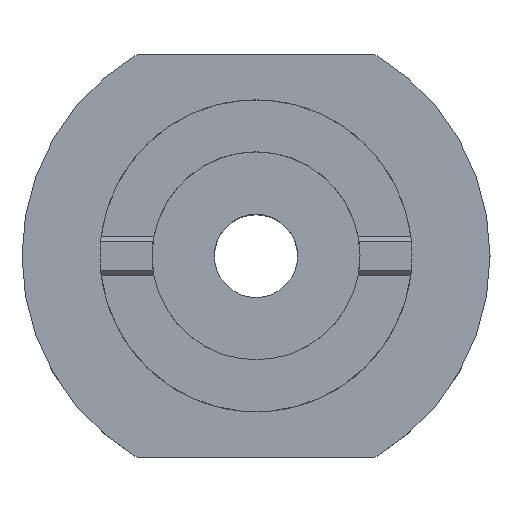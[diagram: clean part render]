
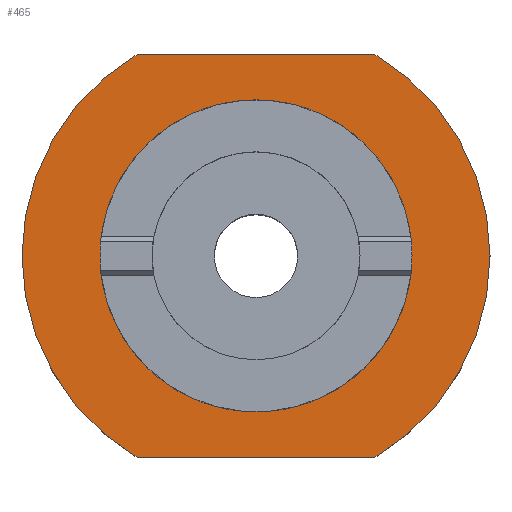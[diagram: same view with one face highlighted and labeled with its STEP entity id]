
A CAD part, top view. The second image highlights one B-rep face of the part: STEP entity #465.
In plain terms, the highlighted planar face has unit normal (0, 0, 1).
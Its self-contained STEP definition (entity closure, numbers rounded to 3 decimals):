
#79=AXIS2_PLACEMENT_3D('Circle Axis2P3D',#77,#78,$) ;
#319=AXIS2_PLACEMENT_3D('Plane Axis2P3D',#316,#317,#318) ;
#381=AXIS2_PLACEMENT_3D('Circle Axis2P3D',#379,#380,$) ;
#412=AXIS2_PLACEMENT_3D('Circle Axis2P3D',#410,#411,$) ;
#429=AXIS2_PLACEMENT_3D('Circle Axis2P3D',#427,#428,$) ;
#449=AXIS2_PLACEMENT_3D('Circle Axis2P3D',#447,#448,$) ;
#458=AXIS2_PLACEMENT_3D('Circle Axis2P3D',#456,#457,$) ;
#37=CARTESIAN_POINT('Line Origine',(0.,7.75,99.2)) ;
#41=CARTESIAN_POINT('Vertex',(4.576,7.75,99.2)) ;
#43=CARTESIAN_POINT('Vertex',(-4.576,7.75,99.2)) ;
#77=CARTESIAN_POINT('Axis2P3D Location',(0.,0.,99.2)) ;
#81=CARTESIAN_POINT('Vertex',(9.,0.,99.2)) ;
#108=CARTESIAN_POINT('Line Origine',(0.,-7.75,99.2)) ;
#112=CARTESIAN_POINT('Vertex',(-4.576,-7.75,99.2)) ;
#114=CARTESIAN_POINT('Vertex',(4.576,-7.75,99.2)) ;
#316=CARTESIAN_POINT('Axis2P3D Location',(0.,0.,99.2)) ;
#379=CARTESIAN_POINT('Axis2P3D Location',(0.,0.,99.2)) ;
#383=CARTESIAN_POINT('Vertex',(-9.,0.,99.2)) ;
#410=CARTESIAN_POINT('Axis2P3D Location',(0.,0.,99.2)) ;
#427=CARTESIAN_POINT('Axis2P3D Location',(0.,0.,99.2)) ;
#447=CARTESIAN_POINT('Axis2P3D Location',(0.,0.,99.2)) ;
#451=CARTESIAN_POINT('Vertex',(6.,0.,99.2)) ;
#453=CARTESIAN_POINT('Vertex',(-6.,0.,99.2)) ;
#456=CARTESIAN_POINT('Axis2P3D Location',(0.,0.,99.2)) ;
#38=DIRECTION('Vector Direction',(1.,0.,0.)) ;
#78=DIRECTION('Axis2P3D Direction',(0.,0.,-1.)) ;
#109=DIRECTION('Vector Direction',(-1.,0.,0.)) ;
#317=DIRECTION('Axis2P3D Direction',(0.,0.,1.)) ;
#318=DIRECTION('Axis2P3D XDirection',(1.,0.,0.)) ;
#380=DIRECTION('Axis2P3D Direction',(0.,0.,-1.)) ;
#411=DIRECTION('Axis2P3D Direction',(0.,0.,-1.)) ;
#428=DIRECTION('Axis2P3D Direction',(0.,0.,-1.)) ;
#448=DIRECTION('Axis2P3D Direction',(0.,0.,1.)) ;
#457=DIRECTION('Axis2P3D Direction',(0.,0.,1.)) ;
#39=VECTOR('Line Direction',#38,1.) ;
#110=VECTOR('Line Direction',#109,1.) ;
#440=ORIENTED_EDGE('',*,*,#431,.F.) ;
#441=ORIENTED_EDGE('',*,*,#385,.F.) ;
#442=ORIENTED_EDGE('',*,*,#116,.T.) ;
#443=ORIENTED_EDGE('',*,*,#414,.F.) ;
#444=ORIENTED_EDGE('',*,*,#83,.F.) ;
#445=ORIENTED_EDGE('',*,*,#45,.T.) ;
#462=ORIENTED_EDGE('',*,*,#455,.F.) ;
#463=ORIENTED_EDGE('',*,*,#460,.F.) ;
#464=FACE_BOUND('',#461,.T.) ;
#465=ADVANCED_FACE('\X2\96F64EF651E04F554F53\X0\',(#446,#464),#320,.T.) ;
#80=CIRCLE('generated circle',#79,9.) ;
#382=CIRCLE('generated circle',#381,9.) ;
#413=CIRCLE('generated circle',#412,9.) ;
#430=CIRCLE('generated circle',#429,9.) ;
#450=CIRCLE('generated circle',#449,6.) ;
#459=CIRCLE('generated circle',#458,6.) ;
#45=EDGE_CURVE('',#42,#44,#40,.F.) ;
#83=EDGE_CURVE('',#42,#82,#80,.T.) ;
#116=EDGE_CURVE('',#113,#115,#111,.F.) ;
#385=EDGE_CURVE('',#113,#384,#382,.T.) ;
#414=EDGE_CURVE('',#82,#115,#413,.T.) ;
#431=EDGE_CURVE('',#384,#44,#430,.T.) ;
#455=EDGE_CURVE('',#452,#454,#450,.T.) ;
#460=EDGE_CURVE('',#454,#452,#459,.T.) ;
#439=EDGE_LOOP('',(#440,#441,#442,#443,#444,#445)) ;
#461=EDGE_LOOP('',(#462,#463)) ;
#446=FACE_OUTER_BOUND('',#439,.T.) ;
#40=LINE('Line',#37,#39) ;
#111=LINE('Line',#108,#110) ;
#320=PLANE('',#319) ;
#42=VERTEX_POINT('',#41) ;
#44=VERTEX_POINT('',#43) ;
#82=VERTEX_POINT('',#81) ;
#113=VERTEX_POINT('',#112) ;
#115=VERTEX_POINT('',#114) ;
#384=VERTEX_POINT('',#383) ;
#452=VERTEX_POINT('',#451) ;
#454=VERTEX_POINT('',#453) ;
